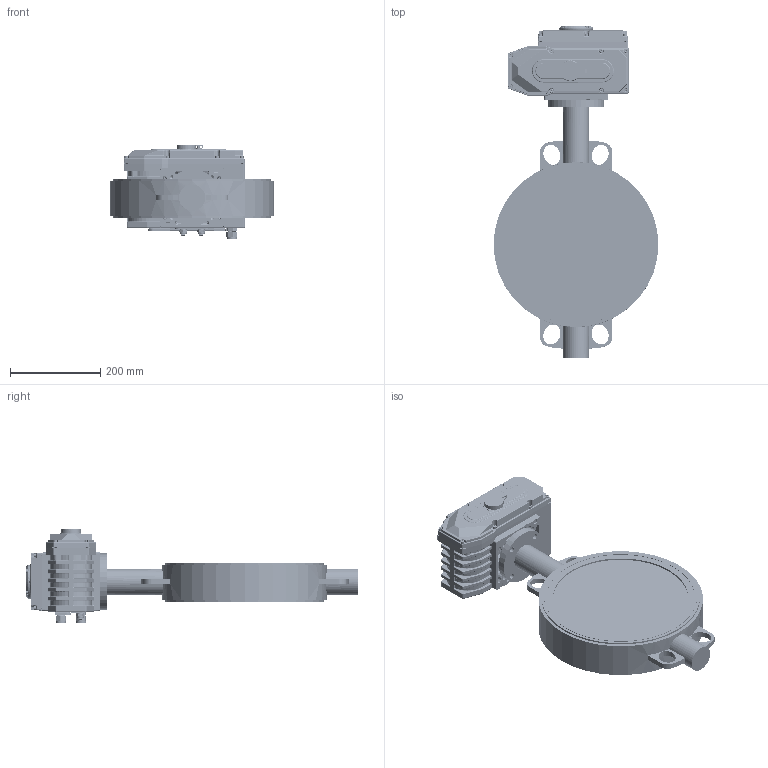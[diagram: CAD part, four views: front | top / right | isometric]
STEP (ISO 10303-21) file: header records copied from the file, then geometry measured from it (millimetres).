
FILE_DESCRIPTION(('STEP AP203'), '1');
FILE_NAME('3D_200_201-300-16-Ï.31', '', ('UNSPECIFIED'), ('UNSPECIFIED'), 'C3D Converter', 'C3D Toolkit', '');
FILE_SCHEMA(('CONFIG_CONTROL_DESIGN'));
Length unit declared in the file: millimetre
Bounding box: 365 x 735 x 209 mm (x, y, z)
Volume: 14575773.1 mm3; surface area: 704526.4 mm2
Topology: 56 solids, 56 shells, 7521 faces, 20690 edges, 13131 vertices
Faces by surface type: plane 4006, cylinder 1956, cone 617, bspline 464, torus 340, sphere 138
Full cylindrical faces by diameter (mm): 2 x2, 2.5 x1, 3 x2, 3.2 x1, 4.2 x18, 4.4 x14, 4.7 x14, 5 x91, 5.5 x4, 5.6 x1, 5.8 x14, 6.5 x1, 7.8 x14, 8.5 x12, 10 x19, 10.1 x2, 10.2 x4, 10.5 x4, 12 x6, 15 x2, 15.73 x4, 20 x4, 22 x2, 32 x1, 35.5 x4, 43 x1, 43.5 x1, 57.5 x1, 58.007 x2, 60 x2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
Entity records: 429825 total; most frequent: CARTESIAN_POINT 189562, ORIENTED_EDGE 39508, DIRECTION 34132, EDGE_CURVE 19754, VERTEX_POINT 13084, AXIS2_PLACEMENT_3D 12115, LINE 9902, VECTOR 9902
